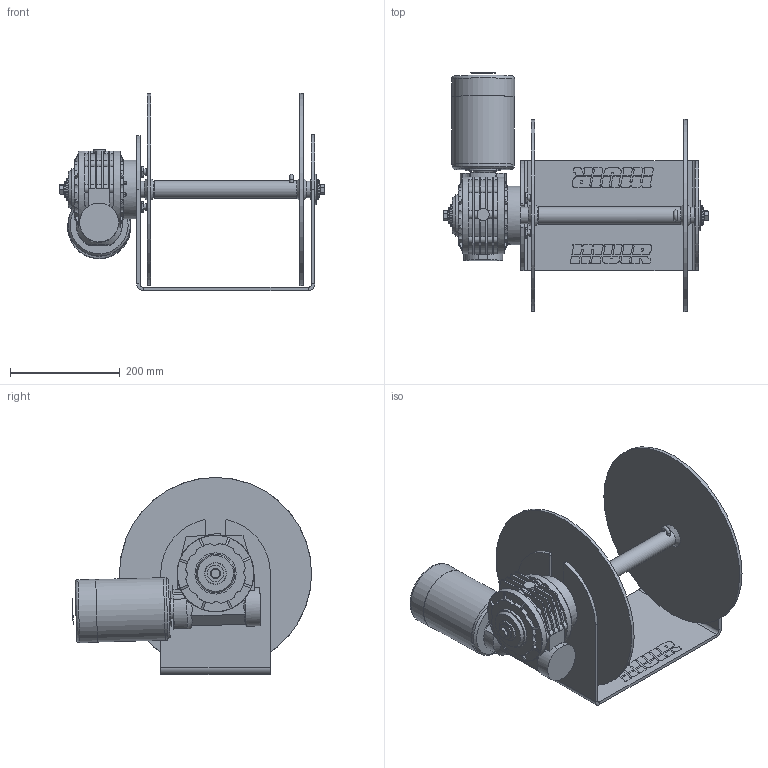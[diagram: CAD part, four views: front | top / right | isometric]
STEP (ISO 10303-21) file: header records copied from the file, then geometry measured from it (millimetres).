
FILE_DESCRIPTION(/* description */ (''),/* implementation_level */ '2;1');
FILE_NAME(/* name */ 'DW12.stp',/* time_stamp */ '2025-12-08T08:48:52+11:00',/* author */ ('markus.mendgen'),/* organization */ (''),/* preprocessor_version */ 'ST-DEVELOPER v20',/* originating_system */ 'Autodesk Inventor 2025',/* authorisation */ '');
FILE_SCHEMA (('AUTOMOTIVE_DESIGN { 1 0 10303 214 3 1 1 }'));
Length unit declared in the file: millimetre
Products named in the file (1): DW12
Bounding box: 481.9 x 435.82 x 359.21 mm (x, y, z)
Volume: 6084809.6 mm3; surface area: 969860.5 mm2
Topology: 1 solids, 2 shells, 1000 faces, 2663 edges, 1721 vertices
Faces by surface type: plane 522, cylinder 372, cone 78, torus 28
Full cylindrical faces by diameter (mm): 6.5 x2, 10 x10, 22 x1, 23 x1, 23.2 x1, 24.96 x1, 27 x1, 30 x4, 31.75 x1, 35 x1, 35.3 x1, 40 x1, 55 x1, 62 x1, 64 x1, 75 x2, 75.2 x1, 107 x1, 113.5 x1, 114 x1, 115 x1, 140 x2, 350 x2
Entity records: 31972 total; most frequent: CARTESIAN_POINT 6203, DIRECTION 5727, ORIENTED_EDGE 5322, EDGE_CURVE 2663, AXIS2_PLACEMENT_3D 2224, VERTEX_POINT 1721, LINE 1279, VECTOR 1279
